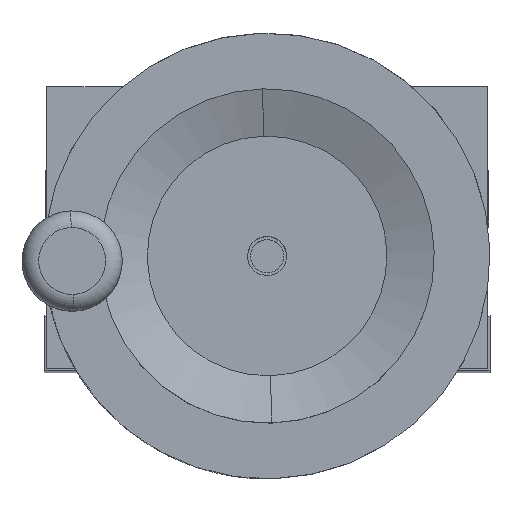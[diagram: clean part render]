
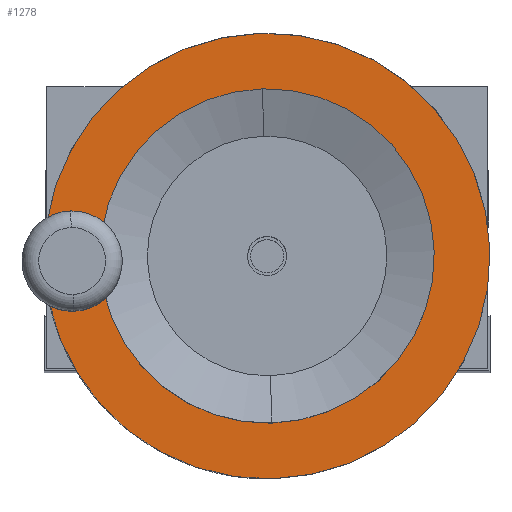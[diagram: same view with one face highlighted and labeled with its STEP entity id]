
A CAD part, top view. The second image highlights one B-rep face of the part: STEP entity #1278.
In plain terms, the highlighted planar face has unit normal (-1, 0, 0) by its records, which use the part's own axes.
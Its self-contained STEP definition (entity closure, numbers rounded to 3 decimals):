
#905 = VERTEX_POINT ( 'NONE', #11633 ) ;
#907 = EDGE_CURVE ( 'NONE', #908, #905, #11632, .T. ) ;
#908 = VERTEX_POINT ( 'NONE', #11627 ) ;
#931 = VERTEX_POINT ( 'NONE', #11658 ) ;
#933 = EDGE_CURVE ( 'NONE', #931, #934, #11657, .T. ) ;
#934 = VERTEX_POINT ( 'NONE', #11773 ) ;
#1262 = ORIENTED_EDGE ( 'NONE', *, *, #1277, .F. ) ;
#1263 = ORIENTED_EDGE ( 'NONE', *, *, #933, .F. ) ;
#1275 = EDGE_LOOP ( 'NONE', ( #1279, #1280 ) ) ;
#1277 = EDGE_CURVE ( 'NONE', #934, #931, #3576, .T. ) ;
#1278 = ADVANCED_FACE ( 'NONE', ( #3571, #3570 ), #3569, .T. ) ;
#1279 = ORIENTED_EDGE ( 'NONE', *, *, #907, .T. ) ;
#1280 = ORIENTED_EDGE ( 'NONE', *, *, #1281, .T. ) ;
#1281 = EDGE_CURVE ( 'NONE', #905, #908, #3564, .T. ) ;
#1282 = EDGE_LOOP ( 'NONE', ( #1262, #1263 ) ) ;
#3559 = DIRECTION ( 'NONE',  ( 0., 0., 1. ) ) ;
#3560 = DIRECTION ( 'NONE',  ( -1., 0., 0. ) ) ;
#3561 = CARTESIAN_POINT ( 'NONE',  ( 17., 0., 0. ) ) ;
#3562 = AXIS2_PLACEMENT_3D ( 'NONE', #3561, #3560, #3559 ) ;
#3564 = CIRCLE ( 'NONE', #3562, 40. ) ;
#3565 = DIRECTION ( 'NONE',  ( 0., 0., 1. ) ) ;
#3566 = DIRECTION ( 'NONE',  ( -1., 0., 0. ) ) ;
#3567 = CARTESIAN_POINT ( 'NONE',  ( 17., 30., 0. ) ) ;
#3568 = AXIS2_PLACEMENT_3D ( 'NONE', #3567, #3566, #3565 ) ;
#3569 = PLANE ( 'NONE',  #3568 ) ;
#3570 = FACE_BOUND ( 'NONE', #1282, .T. ) ;
#3571 = FACE_OUTER_BOUND ( 'NONE', #1275, .T. ) ;
#3572 = DIRECTION ( 'NONE',  ( 0., 0., 1. ) ) ;
#3573 = DIRECTION ( 'NONE',  ( -1., 0., 0. ) ) ;
#3574 = CARTESIAN_POINT ( 'NONE',  ( 17., 0., 0. ) ) ;
#3575 = AXIS2_PLACEMENT_3D ( 'NONE', #3574, #3573, #3572 ) ;
#3576 = CIRCLE ( 'NONE', #3575, 30. ) ;
#11627 = CARTESIAN_POINT ( 'NONE',  ( 17., 0., 40. ) ) ;
#11628 = DIRECTION ( 'NONE',  ( 0., 0., 1. ) ) ;
#11629 = DIRECTION ( 'NONE',  ( -1., 0., 0. ) ) ;
#11630 = CARTESIAN_POINT ( 'NONE',  ( 17., 0., 0. ) ) ;
#11631 = AXIS2_PLACEMENT_3D ( 'NONE', #11630, #11629, #11628 ) ;
#11632 = CIRCLE ( 'NONE', #11631, 40. ) ;
#11633 = CARTESIAN_POINT ( 'NONE',  ( 17., 0., -40. ) ) ;
#11653 = DIRECTION ( 'NONE',  ( 0., 0., 1. ) ) ;
#11654 = DIRECTION ( 'NONE',  ( -1., 0., 0. ) ) ;
#11655 = CARTESIAN_POINT ( 'NONE',  ( 17., 0., 0. ) ) ;
#11656 = AXIS2_PLACEMENT_3D ( 'NONE', #11655, #11654, #11653 ) ;
#11657 = CIRCLE ( 'NONE', #11656, 30. ) ;
#11658 = CARTESIAN_POINT ( 'NONE',  ( 17., 0., 30. ) ) ;
#11773 = CARTESIAN_POINT ( 'NONE',  ( 17., 0., -30. ) ) ;
